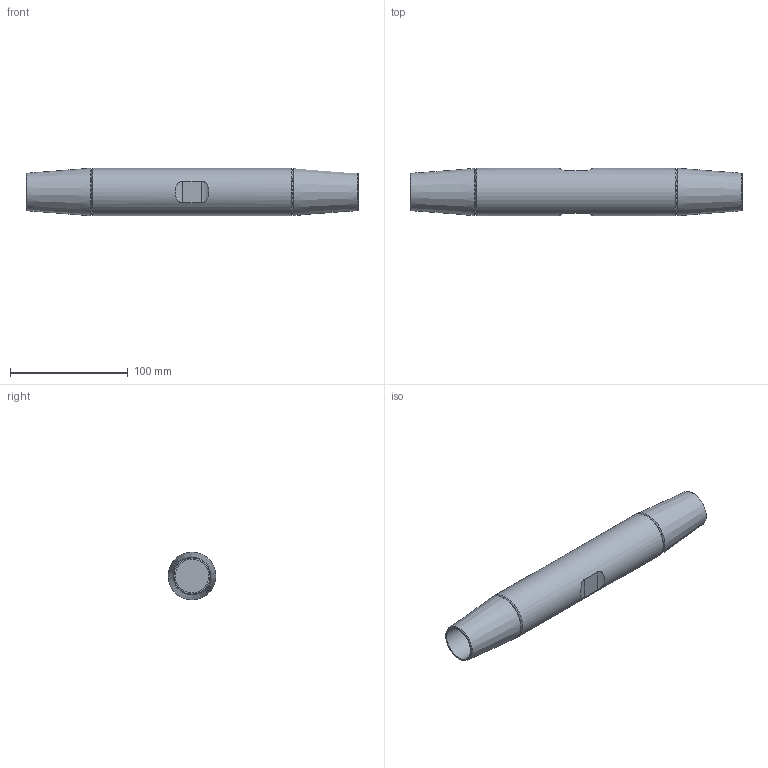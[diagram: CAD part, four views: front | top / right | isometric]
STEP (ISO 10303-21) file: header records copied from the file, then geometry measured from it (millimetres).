
FILE_DESCRIPTION(/* description */ (''),/* implementation_level */ '2;1');
FILE_NAME(/* name */ 'G:\Engineering\700 CAD\Internet-PX-1-step-igs-dxf\520-MUF-Arbeitsdateien\520-027-MUF.stp',/* time_stamp */ '2020-06-30T13:14:16+02:00',/* author */ ('schwarz'),/* organization */ (''),/* preprocessor_version */ 'ST-DEVELOPER v16.1',/* originating_system */ 'Autodesk Inventor 2016',/* authorisation */ '');
FILE_SCHEMA (('AUTOMOTIVE_DESIGN { 1 0 10303 214 3 1 1 }'));
Length unit declared in the file: centimetre
Products named in the file (1): Zusammenbau Muffe 520 027 Kunde
Bounding box: 282 x 40.5 x 40.5 mm (x, y, z)
Volume: 279463.9 mm3; surface area: 43615.8 mm2
Topology: 1 solids, 1 shells, 21 faces, 43 edges, 27 vertices
Faces by surface type: cone 8, cylinder 7, plane 6
Full cylindrical faces by diameter (mm): 28.5 x2, 40.5 x1
Entity records: 613 total; most frequent: CARTESIAN_POINT 166, DIRECTION 80, ORIENTED_EDGE 60, EDGE_LOOP 36, AXIS2_PLACEMENT_3D 36, EDGE_CURVE 30, VERTEX_POINT 26, STYLED_ITEM 22
